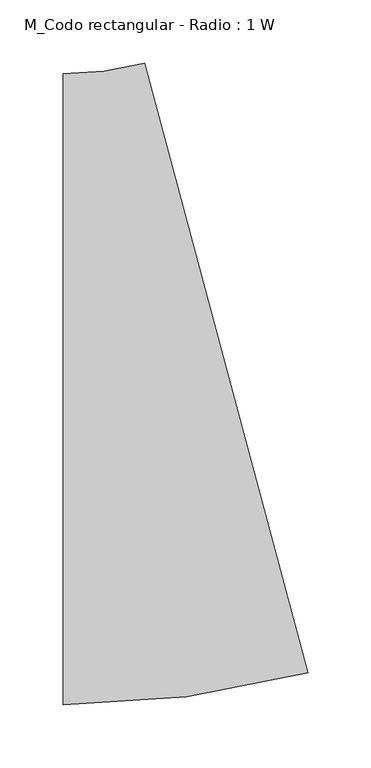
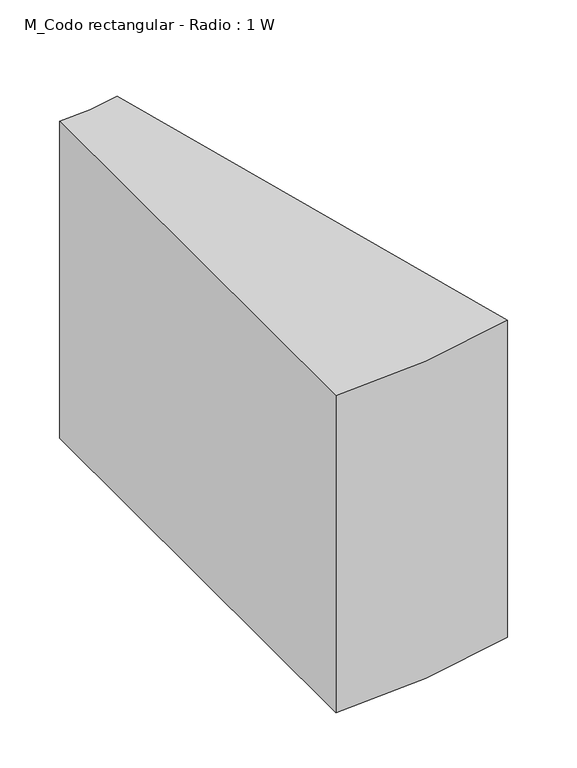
"""IFC4 building model written with IfcOpenShell, lengths in millimetres: duct fitting geometry, M_Codo rectangular - Radio : 1 W."""

import ifcopenshell
import ifcopenshell.guid

model = None  # the IFC model being written
_history = None  # IfcOwnerHistory: only IFC2X3 demands one
_inside = {}  # id of a spatial element -> (the spatial element, [elements in it])
_under = {}  # id of a project, library or spatial element -> (it, [spatial elements below it])
_declared = {}  # id of a project -> (the project, [libraries it declares])
_typed = {}  # id of a type object -> (the type object, [elements of that type])
_made_of = {}  # id of a material, layer set ... -> (it, [elements and type objects made of it])


def new_model(schema):
    """Start an empty IFC model of exactly this schema.

    Asked for "IFC4X3", IfcOpenShell would pick the latest addendum, in which some entities
    have other attributes; the version numbers below select the first issue.
    IFC2X3 requires an IfcOwnerHistory on every rooted entity: one is made here for all.
    """
    global model, _history
    if schema == "IFC4X3":
        model = ifcopenshell.file(schema_version=(4, 3, 0, 0))
    else:
        model = ifcopenshell.file(schema=schema)
    _inside.clear()
    _under.clear()
    _declared.clear()
    _typed.clear()
    _made_of.clear()
    _history = None
    if model.schema == "IFC2X3":
        org = make("IfcOrganization", Name="unknown")
        user = make(
            "IfcPersonAndOrganization",
            ThePerson=make("IfcPerson", FamilyName="unknown"),
            TheOrganization=org,
        )
        app = make(
            "IfcApplication",
            ApplicationDeveloper=org,
            Version="unknown",
            ApplicationFullName="unknown",
            ApplicationIdentifier="unknown",
        )
        _history = make(
            "IfcOwnerHistory",
            OwningUser=user,
            OwningApplication=app,
            ChangeAction="ADDED",
            CreationDate=0,
        )
    return model


def make(cls, **values):
    """One entity of the class cls with the attributes given. An attribute that is None is left unset."""
    return model.create_entity(
        cls, **{name: value for name, value in values.items() if value is not None}
    )


def rooted(cls, **values):
    """An entity with a GlobalId (a new one), such as an element, a storey or a relation."""
    return make(cls, GlobalId=ifcopenshell.guid.new(), OwnerHistory=_history, **values)


def si_unit(unit_type, name, prefix=None):
    """IfcSIUnit, for example si_unit("LENGTHUNIT", "METRE", prefix="MILLI")."""
    return make("IfcSIUnit", UnitType=unit_type, Prefix=prefix, Name=name)


def assignment(units):
    """IfcUnitAssignment: the units of a project."""
    return None if units is None else make("IfcUnitAssignment", Units=units)


def point(xyz):
    """IfcCartesianPoint."""
    return None if xyz is None else make("IfcCartesianPoint", Coordinates=xyz)


def direction(xyz):
    """IfcDirection."""
    return None if xyz is None else make("IfcDirection", DirectionRatios=xyz)


def frame(location, z_axis=None, x_axis=None):
    """IfcAxis2Placement3D, a coordinate frame: its origin and axes. An axis left out is left unset."""
    return make(
        "IfcAxis2Placement3D",
        Location=point(location),
        Axis=direction(z_axis),
        RefDirection=direction(x_axis),
    )


def frame_2d(location, x_axis=None):
    """IfcAxis2Placement2D, a coordinate frame in the plane: its origin and x axis."""
    return make(
        "IfcAxis2Placement2D", Location=point(location), RefDirection=direction(x_axis)
    )


def origin():
    """The frame at (0, 0, 0) with its axes left unset."""
    return frame((0.0, 0.0, 0.0))


def place(relative_to, where):
    """IfcLocalPlacement: puts the frame where relative to a parent placement (None: the world)."""
    return make(
        "IfcLocalPlacement", PlacementRelTo=relative_to, RelativePlacement=where
    )


def context(
    kind, dimensions, precision=None, world=None, true_north=None, identifier=None
):
    """IfcGeometricRepresentationContext, for example the 3D "Model" context."""
    return make(
        "IfcGeometricRepresentationContext",
        ContextIdentifier=identifier,
        ContextType=kind,
        CoordinateSpaceDimension=dimensions,
        Precision=precision,
        WorldCoordinateSystem=world,
        TrueNorth=true_north,
    )


def project(units=None, contexts=None):
    """IfcProject with its units and contexts."""
    return rooted(
        "IfcProject",
        Name="project",
        RepresentationContexts=contexts,
        UnitsInContext=assignment(units),
    )


def spatial(cls, under=None, at=None, **own):
    """A site, building, storey or space (cls), placed at a placement, below another one or the project."""
    s = rooted(cls, ObjectPlacement=at, **own)
    if under is not None:
        _under.setdefault(under.id(), (under, []))[1].append(s)
    return s


def polyline(points):
    """IfcPolyline through the points."""
    return make("IfcPolyline", Points=[point(p) for p in points])


def circle_curve(where, radius):
    """IfcCircle in the frame where."""
    return make("IfcCircle", Position=where, Radius=radius)


def trimmed(basis, trim1, trim2, sense, master):
    """IfcTrimmedCurve: the piece of a basis curve between two trims."""
    return make(
        "IfcTrimmedCurve",
        BasisCurve=basis,
        Trim1=trim1,
        Trim2=trim2,
        SenseAgreement=sense,
        MasterRepresentation=master,
    )


def segment(curve, same_sense, transition):
    """IfcCompositeCurveSegment."""
    return make(
        "IfcCompositeCurveSegment",
        Transition=transition,
        SameSense=same_sense,
        ParentCurve=curve,
    )


def composite_curve(segments, self_intersect=None):
    """IfcCompositeCurve: segments joined end to end."""
    return make("IfcCompositeCurve", Segments=segments, SelfIntersect=self_intersect)


def outline(outer, holes=None, kind="AREA"):
    """IfcArbitraryClosedProfileDef: a profile drawn as a closed curve; with holes, ...WithVoids."""
    if holes is None:
        return make("IfcArbitraryClosedProfileDef", ProfileType=kind, OuterCurve=outer)
    return make(
        "IfcArbitraryProfileDefWithVoids",
        ProfileType=kind,
        OuterCurve=outer,
        InnerCurves=holes,
    )


def extrude(swept, where, along, depth):
    """IfcExtrudedAreaSolid: the profile swept, set in the frame where, extruded along a direction by depth."""
    return make(
        "IfcExtrudedAreaSolid",
        SweptArea=swept,
        Position=where,
        ExtrudedDirection=direction(along),
        Depth=depth,
    )


def shape(context_of_items, identifier, shape_type, items):
    """IfcShapeRepresentation: the items that make up one representation, for example the "Body"."""
    return make(
        "IfcShapeRepresentation",
        ContextOfItems=context_of_items,
        RepresentationIdentifier=identifier,
        RepresentationType=shape_type,
        Items=items,
    )


def source(mapping_origin, context_of_items, identifier, shape_type, items):
    """IfcRepresentationMap: a shape defined once, which mapped items show again and again."""
    return make(
        "IfcRepresentationMap",
        MappingOrigin=mapping_origin,
        MappedRepresentation=shape(context_of_items, identifier, shape_type, items),
    )


def transform(
    local_origin,
    x_axis=None,
    y_axis=None,
    z_axis=None,
    scale=None,
    scale2=None,
    scale3=None,
    uniform=True,
):
    """IfcCartesianTransformationOperator3D, or its non-uniform kind. x_axis, y_axis, z_axis: its Axis1, 2, 3."""
    if uniform:
        return make(
            "IfcCartesianTransformationOperator3D",
            Axis1=direction(x_axis),
            Axis2=direction(y_axis),
            LocalOrigin=point(local_origin),
            Scale=scale,
            Axis3=direction(z_axis),
        )
    return make(
        "IfcCartesianTransformationOperator3DnonUniform",
        Axis1=direction(x_axis),
        Axis2=direction(y_axis),
        LocalOrigin=point(local_origin),
        Scale=scale,
        Axis3=direction(z_axis),
        Scale2=scale2,
        Scale3=scale3,
    )


def mapped(mapping_source, mapping_target):
    """IfcMappedItem: shows the shape of a source again, moved by a transform."""
    return make(
        "IfcMappedItem", MappingSource=mapping_source, MappingTarget=mapping_target
    )


def made_of(thing, what):
    """Note that an element or type object is made of a material, layer set ...; save() writes the relation."""
    if what is not None:
        _made_of.setdefault(what.id(), (what, []))[1].append(thing)
    return thing


def element(
    cls,
    number,
    at=None,
    inside=None,
    cuts=None,
    type_object=None,
    material=None,
    context=None,
    identifier="Body",
    shape_type=None,
    held_by="IfcProductDefinitionShape",
    body=None,
    shapes=None,
    **own,
):
    """One element of the class cls, such as IfcWall. Its Tag is "e" and its number.

    at: its placement. inside: the storey or other place that contains it. cuts: it is an
    opening in that element (IfcRelVoidsElement). A single representation is given by context,
    identifier, shape_type and body (its items); several are given by shapes. held_by: the class
    of the entity that holds the representations. save() writes the other relations.
    """
    e = rooted(cls, Tag="e%d" % number, ObjectPlacement=at, **own)
    if body is not None:
        shapes = [shape(context, identifier, shape_type, body)]
    if shapes is not None:
        e.Representation = make(held_by, Representations=shapes)
    if inside is not None:
        _inside.setdefault(inside.id(), (inside, []))[1].append(e)
    if cuts is not None:
        rooted(
            "IfcRelVoidsElement", RelatingBuildingElement=cuts, RelatedOpeningElement=e
        )
    if type_object is not None:
        _typed.setdefault(type_object.id(), (type_object, []))[1].append(e)
    return made_of(e, material)


def aggregate(whole, parts):
    """IfcRelAggregates: a whole, such as a stair, and the parts it consists of."""
    return rooted("IfcRelAggregates", RelatingObject=whole, RelatedObjects=parts)


def save(model, path):
    """Write the relations noted so far, then the file.

    IfcRelAggregates (storeys below a building ...), IfcRelContainedInSpatialStructure (elements
    in a storey), IfcRelDefinesByType, IfcRelAssociatesMaterial and IfcRelDeclares: one each for
    every whole, place, type object, material and project.
    """
    for whole, parts in _under.values():
        aggregate(whole, parts)
    for where, things in _inside.values():
        rooted(
            "IfcRelContainedInSpatialStructure",
            RelatedElements=things,
            RelatingStructure=where,
        )
    for kind, things in _typed.values():
        rooted("IfcRelDefinesByType", RelatedObjects=things, RelatingType=kind)
    for what, things in _made_of.values():
        rooted("IfcRelAssociatesMaterial", RelatedObjects=things, RelatingMaterial=what)
    for by, libraries in _declared.values():
        rooted("IfcRelDeclares", RelatingContext=by, RelatedDefinitions=libraries)
    model.write(path)


def m_codo_rectangular_radio_1_w_ed8017a3(model_context):
    return source(origin(), model_context, "Body", "SweptSolid", [
        extrude(outline(composite_curve([segment(trimmed(circle_curve(frame_2d((-65.8262488, 500.0)), 750.0), [point((128.288035, -224.4443697))], [point((-65.8262488, -250.0))], False, "CARTESIAN"), True, "CONTINUOUS"), segment(polyline([(-65.8262488, -250.0), (-65.8262488, 250.0)]), True, "CONTINUOUS"), segment(trimmed(circle_curve(frame_2d((-65.8262488, 500.0)), 250.0), [point((-65.8262488, 250.0))], [point((-1.1214875, 258.5185434))], True, "CARTESIAN"), True, "CONTINUOUS"), segment(polyline([(-1.1214875, 258.5185434), (128.288035, -224.4443697)]), True, "CONTINUOUS")], self_intersect=False)), frame((0.0, 0.0, -175.0), z_axis=(0.0, 0.0, 1.0), x_axis=(1.0, 0.0, 0.0)), (0.0, 0.0, 1.0), 350.0),
    ])


if __name__ == "__main__":
    model = new_model("IFC4")
    model_context = context("Model", 3, world=origin())
    ifc_project = project(units=[si_unit("LENGTHUNIT", "METRE", prefix="MILLI")], contexts=[model_context])
    site = spatial("IfcSite", under=ifc_project)
    building = spatial("IfcBuilding", under=site)
    placement = place(None, origin())
    m_codo_rectangular_radio_1_w_shape = m_codo_rectangular_radio_1_w_ed8017a3(model_context)
    element("IfcDuctFitting", 1, ObjectType="M_Codo rectangular - Radio : 1 W", at=placement, inside=building, context=model_context, shape_type="MappedRepresentation", body=[
        mapped(m_codo_rectangular_radio_1_w_shape, transform((0.0, 0.0, 0.0), x_axis=(1.0, 0.0, 0.0), y_axis=(0.0, 1.0, 0.0), z_axis=(0.0, 0.0, 1.0))),
    ])
    save(model, "model.ifc")
